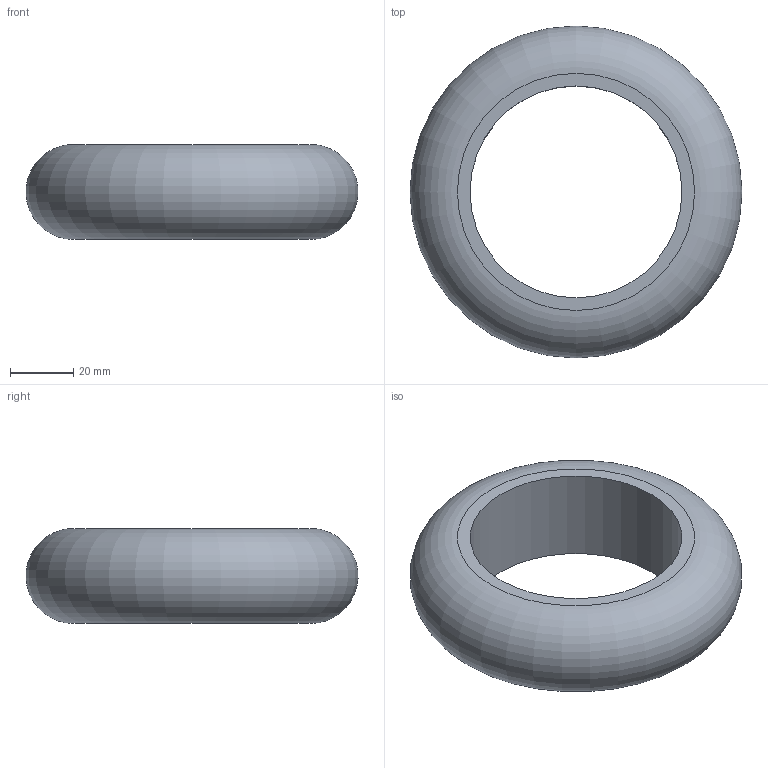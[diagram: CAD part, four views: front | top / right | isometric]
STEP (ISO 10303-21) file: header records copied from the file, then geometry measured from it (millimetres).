
FILE_DESCRIPTION(('STEP AP242'), '1');
FILE_NAME('项牮赅', '', ('UNSPECIFIED'), ('UNSPECIFIED'), 'C3D Converter', 'C3D Toolkit', '');
FILE_SCHEMA(('AP242_MANAGED_MODEL_BASED_3D_ENGINEERING_MIM_LF { 1 0 10303 442 1 1 4 }'));
Length unit declared in the file: millimetre
Bounding box: 104.96 x 104.96 x 30 mm (x, y, z)
Volume: 124178.3 mm3; surface area: 22029.8 mm2
Topology: 1 solids, 1 shells, 4 faces, 6 edges, 4 vertices
Faces by surface type: plane 2, cylinder 1, torus 1
Full cylindrical faces by diameter (mm): 67 x1
Entity records: 128 total; most frequent: DIRECTION 18, CARTESIAN_POINT 13, AXIS2_PLACEMENT_3D 9, EDGE_LOOP 8, ORIENTED_EDGE 8, ADVANCED_FACE 4, FACE_BOUND 4, FACE_OUTER_BOUND 4
